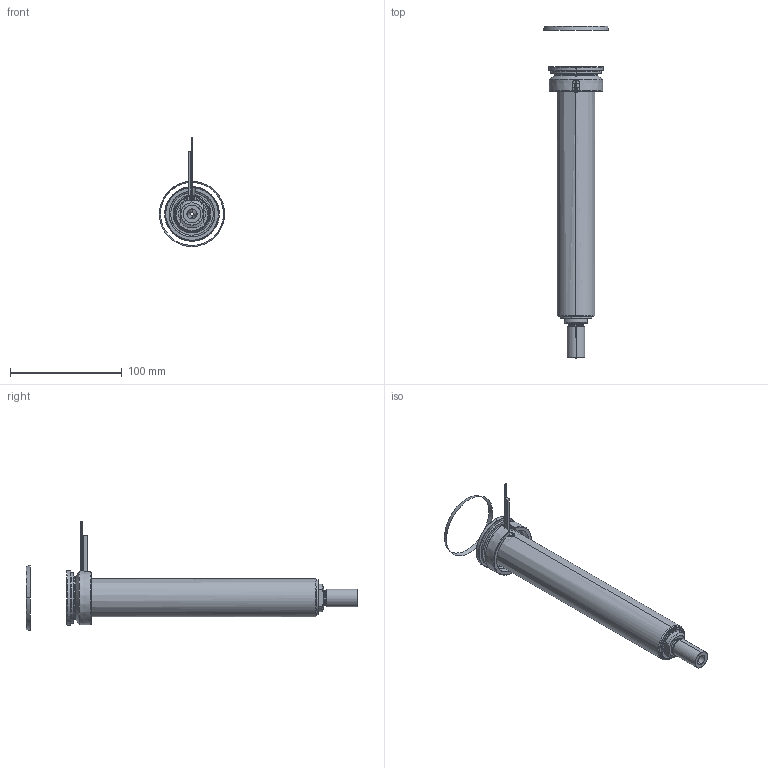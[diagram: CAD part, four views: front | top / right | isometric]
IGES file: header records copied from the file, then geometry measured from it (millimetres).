
Start section: SolidWorks IGES file using analytic representation for surfaces
Global section: file name: C:\Documents and Settings\ws-20\Desktop\TEMPORANEA\UGBE5005-S-A-P-5 [Ød-3.0 P-25 ØC-13].IGS; native system: SolidWorks 2012; preprocessor: SolidWorks 2012; author: ws-20; date: 120306.163116; units: millimetre
Bounding box: 58.57 x 297.44 x 97.91 mm (x, y, z)
Surface area: 90590.1 mm2 (no closed solid volume)
Topology: 0 solids, 0 shells, 108 faces, 2092 edges, 2092 vertices
Faces by surface type: revolution 67, bspline 41
